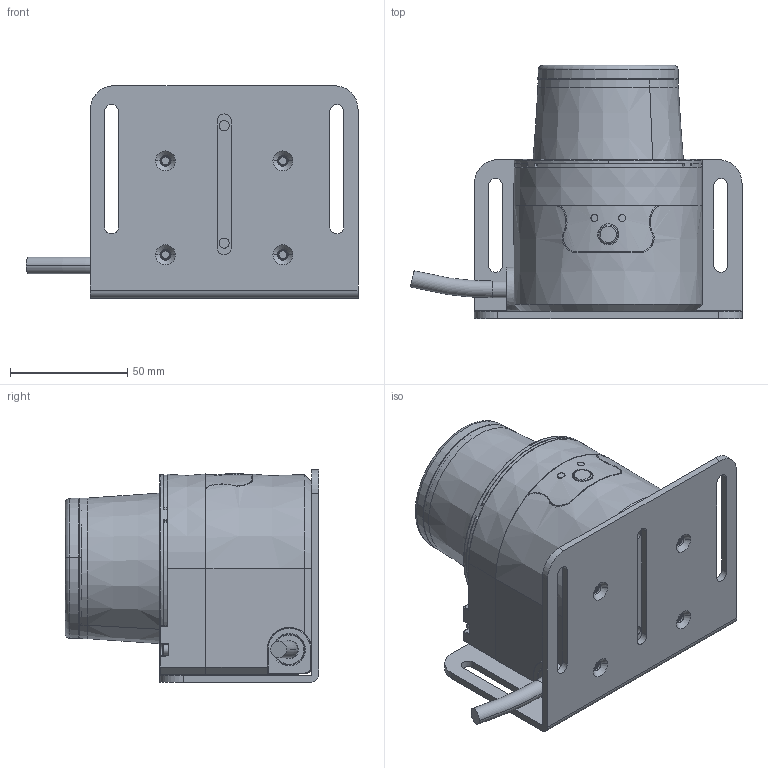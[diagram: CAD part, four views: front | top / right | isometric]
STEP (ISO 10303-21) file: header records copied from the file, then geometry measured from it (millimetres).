
FILE_DESCRIPTION((''),'2;1');
FILE_NAME('00_ASM','2018-07-08T',('Administrator'),(''),'PRO/ENGINEER BY PARAMETRIC TECHNOLOGY CORPORATION, 2005030','PRO/ENGINEER BY PARAMETRIC TECHNOLOGY CORPORATION, 2005030','');
FILE_SCHEMA(('CONFIG_CONTROL_DESIGN'));
Length unit declared in the file: millimetre
Products named in the file (27): HEXAGON_SOCKET_COUNTERSUNK_HEAD; C01-QZBAZZ_1; PRT0001_13; A07-XG___UPDATE_ASM_1_ASM_ASM; ____4_1; ______2_2; A15-LEDLOGO_ASM_8_ASM_ASM; A16-LYDZ2_1; D04-QZB_1; HEXAGON_SOCKET_HEAD_CAP_SCREWS_; D09-CPUJKB_1; A03-TGZDG_1; D07-DJB_1; D06-LEDB_1; A19-XLMFQ_1; A04-TGZYH_2; D02-CPUB_1; A21-_________1; A01-TGZ_________1; D03-FSB_1; D05-CLB_1; ______-302________-M4-53441_2; L_BRACKET_13; A12-SXGMFQ_2; A12-SXGMFQ_ASM_1_ASM_ASM; A05-SG; 00_ASM
Assembly tree (38 placements, depth 3):
  00_ASM
    HEXAGON_SOCKET_COUNTERSUNK_HEAD  x6
    C01-QZBAZZ_1  x4
    A07-XG___UPDATE_ASM_1_ASM_ASM
      PRT0001_13
    A15-LEDLOGO_ASM_8_ASM_ASM
      ____4_1
      ______2_2
    A16-LYDZ2_1
    D04-QZB_1
    HEXAGON_SOCKET_HEAD_CAP_SCREWS_  x2
    D09-CPUJKB_1
    A03-TGZDG_1
    D07-DJB_1
    D06-LEDB_1
    A19-XLMFQ_1
    A04-TGZYH_2
    D02-CPUB_1
    A21-_________1
    A01-TGZ_________1
    D03-FSB_1
    D05-CLB_1
    ______-302________-M4-53441_2  x4
    L_BRACKET_13
    A12-SXGMFQ_ASM_1_ASM_ASM
      A12-SXGMFQ_2
    A05-SG
Bounding box: 141.41 x 107.88 x 90.5 mm (x, y, z)
Volume: 219603.8 mm3; surface area: 183129.4 mm2
Topology: 35 solids, 35 shells, 1646 faces, 4270 edges, 2761 vertices
Faces by surface type: plane 559, cone 443, cylinder 393, torus 82, bspline 63, revolution 60, extrusion 45, sphere 1
Entity records: 53765 total; most frequent: CARTESIAN_POINT 18800, DIRECTION 7318, ORIENTED_EDGE 7144, EDGE_CURVE 3572, AXIS2_PLACEMENT_3D 2895, VERTEX_POINT 2335, EDGE_LOOP 1601, CIRCLE 1599
